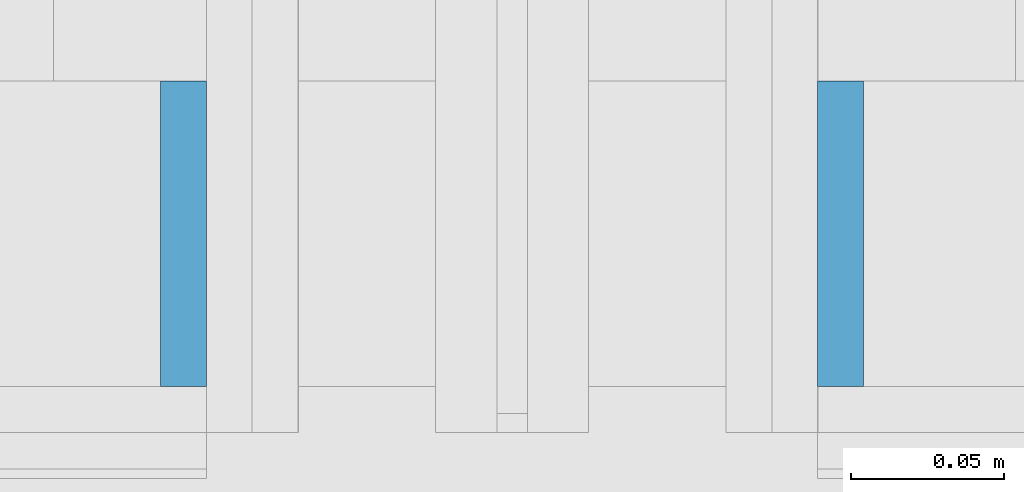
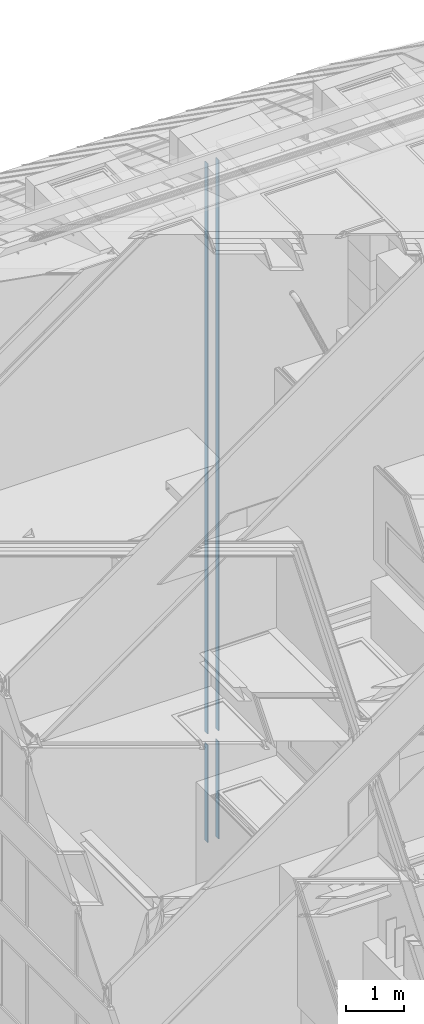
# One storey, part 151 of 583: 4 building element parts, 2 elements without a shape of their own.
"""IFC2X3 building model written with IfcOpenShell, lengths in metres."""

import ifcopenshell
import ifcopenshell.guid

model = None  # the IFC model being written
_history = None  # IfcOwnerHistory: only IFC2X3 demands one
_inside = {}  # id of a spatial element -> (the spatial element, [elements in it])
_under = {}  # id of a project, library or spatial element -> (it, [spatial elements below it])
_declared = {}  # id of a project -> (the project, [libraries it declares])
_typed = {}  # id of a type object -> (the type object, [elements of that type])
_made_of = {}  # id of a material, layer set ... -> (it, [elements and type objects made of it])


def new_model(schema):
    """Start an empty IFC model of exactly this schema.

    Asked for "IFC4X3", IfcOpenShell would pick the latest addendum, in which some entities
    have other attributes; the version numbers below select the first issue.
    IFC2X3 requires an IfcOwnerHistory on every rooted entity: one is made here for all.
    """
    global model, _history
    if schema == "IFC4X3":
        model = ifcopenshell.file(schema_version=(4, 3, 0, 0))
    else:
        model = ifcopenshell.file(schema=schema)
    _inside.clear()
    _under.clear()
    _declared.clear()
    _typed.clear()
    _made_of.clear()
    _history = None
    if model.schema == "IFC2X3":
        org = make("IfcOrganization", Name="unknown")
        user = make(
            "IfcPersonAndOrganization",
            ThePerson=make("IfcPerson", FamilyName="unknown"),
            TheOrganization=org,
        )
        app = make(
            "IfcApplication",
            ApplicationDeveloper=org,
            Version="unknown",
            ApplicationFullName="unknown",
            ApplicationIdentifier="unknown",
        )
        _history = make(
            "IfcOwnerHistory",
            OwningUser=user,
            OwningApplication=app,
            ChangeAction="ADDED",
            CreationDate=0,
        )
    return model


def make(cls, **values):
    """One entity of the class cls with the attributes given. An attribute that is None is left unset."""
    return model.create_entity(
        cls, **{name: value for name, value in values.items() if value is not None}
    )


def entity(cls, *values):
    """Any entity or typed value of the class cls, its attributes in the order of the schema. None: left unset."""
    e = model.create_entity(cls)
    for i, value in enumerate(values):
        if value is not None:
            e[i] = value
    return e


def rooted(cls, **values):
    """An entity with a GlobalId (a new one), such as an element, a storey or a relation."""
    return make(cls, GlobalId=ifcopenshell.guid.new(), OwnerHistory=_history, **values)


def si_unit(unit_type, name, prefix=None):
    """IfcSIUnit, for example si_unit("LENGTHUNIT", "METRE", prefix="MILLI")."""
    return make("IfcSIUnit", UnitType=unit_type, Prefix=prefix, Name=name)


def converted_unit(unit_type, name, factor, base, dimensions=None, offset=None):
    """IfcConversionBasedUnit, such as the inch: factor (a typed value) times the base unit."""
    return make(
        "IfcConversionBasedUnit"
        if offset is None
        else "IfcConversionBasedUnitWithOffset",
        ConversionOffset=offset,
        Dimensions=None
        if dimensions is None
        else entity("IfcDimensionalExponents", *dimensions),
        UnitType=unit_type,
        Name=name,
        ConversionFactor=make(
            "IfcMeasureWithUnit", ValueComponent=factor, UnitComponent=base
        ),
    )


def derived_unit(unit_type, elements):
    """IfcDerivedUnit: a product of units, each with its exponent."""
    return make(
        "IfcDerivedUnit",
        Elements=[
            make("IfcDerivedUnitElement", Unit=unit, Exponent=power)
            for unit, power in elements
        ],
        UnitType=unit_type,
    )


def money_unit(currency):
    """IfcMonetaryUnit."""
    return make("IfcMonetaryUnit", Currency=currency)


def assignment(units):
    """IfcUnitAssignment: the units of a project."""
    return None if units is None else make("IfcUnitAssignment", Units=units)


def point(xyz):
    """IfcCartesianPoint."""
    return None if xyz is None else make("IfcCartesianPoint", Coordinates=xyz)


def direction(xyz):
    """IfcDirection."""
    return None if xyz is None else make("IfcDirection", DirectionRatios=xyz)


def frame(location, z_axis=None, x_axis=None):
    """IfcAxis2Placement3D, a coordinate frame: its origin and axes. An axis left out is left unset."""
    return make(
        "IfcAxis2Placement3D",
        Location=point(location),
        Axis=direction(z_axis),
        RefDirection=direction(x_axis),
    )


def frame_2d(location, x_axis=None):
    """IfcAxis2Placement2D, a coordinate frame in the plane: its origin and x axis."""
    return make(
        "IfcAxis2Placement2D", Location=point(location), RefDirection=direction(x_axis)
    )


def origin_with_axes():
    """The frame at (0, 0, 0) with the z axis (0, 0, 1) and the x axis (1, 0, 0) written out."""
    return frame((0.0, 0.0, 0.0), z_axis=(0.0, 0.0, 1.0), x_axis=(1.0, 0.0, 0.0))


def place(relative_to, where):
    """IfcLocalPlacement: puts the frame where relative to a parent placement (None: the world)."""
    return make(
        "IfcLocalPlacement", PlacementRelTo=relative_to, RelativePlacement=where
    )


def context(
    kind, dimensions, precision=None, world=None, true_north=None, identifier=None
):
    """IfcGeometricRepresentationContext, for example the 3D "Model" context."""
    return make(
        "IfcGeometricRepresentationContext",
        ContextIdentifier=identifier,
        ContextType=kind,
        CoordinateSpaceDimension=dimensions,
        Precision=precision,
        WorldCoordinateSystem=world,
        TrueNorth=true_north,
    )


def subcontext(parent, identifier, kind, view, scale=None):
    """IfcGeometricRepresentationSubContext, for example "Body" below "Model"."""
    return make(
        "IfcGeometricRepresentationSubContext",
        ContextIdentifier=identifier,
        ContextType=kind,
        ParentContext=parent,
        TargetScale=scale,
        TargetView=view,
    )


def project(units=None, contexts=None):
    """IfcProject with its units and contexts."""
    return rooted(
        "IfcProject",
        Name="project",
        RepresentationContexts=contexts,
        UnitsInContext=assignment(units),
    )


def spatial(cls, under=None, at=None, **own):
    """A site, building, storey or space (cls), placed at a placement, below another one or the project."""
    s = rooted(cls, ObjectPlacement=at, **own)
    if under is not None:
        _under.setdefault(under.id(), (under, []))[1].append(s)
    return s


def polyline(points):
    """IfcPolyline through the points."""
    return make("IfcPolyline", Points=[point(p) for p in points])


def profile(cls, at=None, kind="AREA", **sizes):
    """A parametric profile (cls). Its sizes go by their IFC names, for example OverallWidth=200.0."""
    return make(cls, ProfileType=kind, Position=at, **sizes)


def rectangle(**sizes):
    """IfcRectangleProfileDef."""
    return profile("IfcRectangleProfileDef", **sizes)


def outline(outer, holes=None, kind="AREA"):
    """IfcArbitraryClosedProfileDef: a profile drawn as a closed curve; with holes, ...WithVoids."""
    if holes is None:
        return make("IfcArbitraryClosedProfileDef", ProfileType=kind, OuterCurve=outer)
    return make(
        "IfcArbitraryProfileDefWithVoids",
        ProfileType=kind,
        OuterCurve=outer,
        InnerCurves=holes,
    )


def extrude(swept, where, along, depth):
    """IfcExtrudedAreaSolid: the profile swept, set in the frame where, extruded along a direction by depth."""
    return make(
        "IfcExtrudedAreaSolid",
        SweptArea=swept,
        Position=where,
        ExtrudedDirection=direction(along),
        Depth=depth,
    )


def shape(context_of_items, identifier, shape_type, items):
    """IfcShapeRepresentation: the items that make up one representation, for example the "Body"."""
    return make(
        "IfcShapeRepresentation",
        ContextOfItems=context_of_items,
        RepresentationIdentifier=identifier,
        RepresentationType=shape_type,
        Items=items,
    )


def material(Name=None, Category=None):
    """IfcMaterial."""
    return make("IfcMaterial", Name=Name, Category=Category)


def made_of(thing, what):
    """Note that an element or type object is made of a material, layer set ...; save() writes the relation."""
    if what is not None:
        _made_of.setdefault(what.id(), (what, []))[1].append(thing)
    return thing


def type_object(cls, material=None, **own):
    """A type object (cls), such as IfcWallType, which elements share."""
    return made_of(rooted(cls, **own), material)


def element(
    cls,
    number,
    at=None,
    inside=None,
    cuts=None,
    type_object=None,
    material=None,
    context=None,
    identifier="Body",
    shape_type=None,
    held_by="IfcProductDefinitionShape",
    body=None,
    shapes=None,
    **own,
):
    """One element of the class cls, such as IfcWall. Its Tag is "e" and its number.

    at: its placement. inside: the storey or other place that contains it. cuts: it is an
    opening in that element (IfcRelVoidsElement). A single representation is given by context,
    identifier, shape_type and body (its items); several are given by shapes. held_by: the class
    of the entity that holds the representations. save() writes the other relations.
    """
    e = rooted(cls, Tag="e%d" % number, ObjectPlacement=at, **own)
    if body is not None:
        shapes = [shape(context, identifier, shape_type, body)]
    if shapes is not None:
        e.Representation = make(held_by, Representations=shapes)
    if inside is not None:
        _inside.setdefault(inside.id(), (inside, []))[1].append(e)
    if cuts is not None:
        rooted(
            "IfcRelVoidsElement", RelatingBuildingElement=cuts, RelatedOpeningElement=e
        )
    if type_object is not None:
        _typed.setdefault(type_object.id(), (type_object, []))[1].append(e)
    return made_of(e, material)


def aggregate(whole, parts):
    """IfcRelAggregates: a whole, such as a stair, and the parts it consists of."""
    return rooted("IfcRelAggregates", RelatingObject=whole, RelatedObjects=parts)


def save(model, path):
    """Write the relations noted so far, then the file.

    IfcRelAggregates (storeys below a building ...), IfcRelContainedInSpatialStructure (elements
    in a storey), IfcRelDefinesByType, IfcRelAssociatesMaterial and IfcRelDeclares: one each for
    every whole, place, type object, material and project.
    """
    for whole, parts in _under.values():
        aggregate(whole, parts)
    for where, things in _inside.values():
        rooted(
            "IfcRelContainedInSpatialStructure",
            RelatedElements=things,
            RelatingStructure=where,
        )
    for kind, things in _typed.values():
        rooted("IfcRelDefinesByType", RelatedObjects=things, RelatingType=kind)
    for what, things in _made_of.values():
        rooted("IfcRelAssociatesMaterial", RelatedObjects=things, RelatingMaterial=what)
    for by, libraries in _declared.values():
        rooted("IfcRelDeclares", RelatingContext=by, RelatedDefinitions=libraries)
    model.write(path)


model = new_model("IFC2X3")

# Units and contexts
model_context = context("Model", 3, precision=1e-05, world=origin_with_axes(), true_north=direction((0.0, 1.0)))
body_context = subcontext(model_context, "Body", "Model", "MODEL_VIEW", scale=1.0)
ifc_project = project(units=[si_unit("LENGTHUNIT", "METRE"), si_unit("AREAUNIT", "SQUARE_METRE"), si_unit("VOLUMEUNIT", "CUBIC_METRE"), si_unit("ABSORBEDDOSEUNIT", "GRAY"), si_unit("AMOUNTOFSUBSTANCEUNIT", "MOLE"), si_unit("DOSEEQUIVALENTUNIT", "SIEVERT"), si_unit("ELECTRICCAPACITANCEUNIT", "FARAD"), si_unit("ELECTRICCHARGEUNIT", "COULOMB"), si_unit("ELECTRICCONDUCTANCEUNIT", "SIEMENS"), si_unit("ELECTRICCURRENTUNIT", "AMPERE"), si_unit("ELECTRICRESISTANCEUNIT", "OHM"), si_unit("ELECTRICVOLTAGEUNIT", "VOLT"), si_unit("ENERGYUNIT", "JOULE"), si_unit("FORCEUNIT", "NEWTON"), si_unit("FREQUENCYUNIT", "HERTZ"), si_unit("ILLUMINANCEUNIT", "LUX"), si_unit("INDUCTANCEUNIT", "HENRY"), si_unit("LUMINOUSFLUXUNIT", "LUMEN"), si_unit("LUMINOUSINTENSITYUNIT", "CANDELA"), si_unit("MAGNETICFLUXDENSITYUNIT", "TESLA"), si_unit("MAGNETICFLUXUNIT", "WEBER"), si_unit("MASSUNIT", "GRAM"), converted_unit("PLANEANGLEUNIT", "degree", entity("IfcReal", 0.0174532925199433), si_unit("PLANEANGLEUNIT", "RADIAN"), dimensions=[0, 0, 0, 0, 0, 0, 0]), si_unit("POWERUNIT", "WATT"), si_unit("PRESSUREUNIT", "PASCAL"), si_unit("RADIOACTIVITYUNIT", "BECQUEREL"), si_unit("SOLIDANGLEUNIT", "STERADIAN"), si_unit("THERMODYNAMICTEMPERATUREUNIT", "KELVIN"), si_unit("TIMEUNIT", "SECOND"), derived_unit("ACCELERATIONUNIT", [(si_unit("LENGTHUNIT", "METRE"), 1), (si_unit("TIMEUNIT", "SECOND"), -2)]), derived_unit("ANGULARVELOCITYUNIT", [(converted_unit("PLANEANGLEUNIT", "degree", entity("IfcReal", 0.0174532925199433), si_unit("PLANEANGLEUNIT", "RADIAN"), dimensions=[0, 0, 0, 0, 0, 0, 0]), 1), (si_unit("TIMEUNIT", "SECOND"), -1)]), derived_unit("CURVATUREUNIT", [(converted_unit("PLANEANGLEUNIT", "degree", entity("IfcReal", 0.0174532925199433), si_unit("PLANEANGLEUNIT", "RADIAN"), dimensions=[0, 0, 0, 0, 0, 0, 0]), 1), (si_unit("LENGTHUNIT", "METRE"), -1)]), derived_unit("DYNAMICVISCOSITYUNIT", [(si_unit("PRESSUREUNIT", "PASCAL"), 1), (si_unit("TIMEUNIT", "SECOND"), 1)]), derived_unit("HEATFLUXDENSITYUNIT", [(si_unit("POWERUNIT", "WATT"), 1), (si_unit("LENGTHUNIT", "METRE"), -2)]), derived_unit("HEATINGVALUEUNIT", [(si_unit("ENERGYUNIT", "JOULE"), 1), (si_unit("MASSUNIT", "GRAM"), -1)]), derived_unit("INTEGERCOUNTRATEUNIT", [(si_unit("TIMEUNIT", "SECOND"), -1)]), derived_unit("IONCONCENTRATIONUNIT", [(si_unit("MASSUNIT", "GRAM"), 1), (si_unit("VOLUMEUNIT", "CUBIC_METRE"), -1)]), derived_unit("ISOTHERMALMOISTURECAPACITYUNIT", [(si_unit("VOLUMEUNIT", "CUBIC_METRE"), 1), (si_unit("MASSUNIT", "GRAM"), -1)]), derived_unit("KINEMATICVISCOSITYUNIT", [(si_unit("AREAUNIT", "SQUARE_METRE"), 1), (si_unit("TIMEUNIT", "SECOND"), -1)]), derived_unit("LINEARFORCEUNIT", [(si_unit("FORCEUNIT", "NEWTON"), 1), (si_unit("LENGTHUNIT", "METRE"), -1)]), derived_unit("LINEARMOMENTUNIT", [(si_unit("FORCEUNIT", "NEWTON"), 1), (si_unit("LENGTHUNIT", "METRE"), -1)]), derived_unit("LINEARSTIFFNESSUNIT", [(si_unit("FORCEUNIT", "NEWTON"), 1), (si_unit("LENGTHUNIT", "METRE"), -1)]), derived_unit("LINEARVELOCITYUNIT", [(si_unit("LENGTHUNIT", "METRE"), 1), (si_unit("TIMEUNIT", "SECOND"), -1)]), derived_unit("LUMINOUSINTENSITYDISTRIBUTIONUNIT", [(si_unit("LUMINOUSINTENSITYUNIT", "CANDELA"), 1), (si_unit("LUMINOUSFLUXUNIT", "LUMEN"), -1)]), derived_unit("MASSDENSITYUNIT", [(si_unit("MASSUNIT", "GRAM"), 1), (si_unit("VOLUMEUNIT", "CUBIC_METRE"), -1)]), derived_unit("MASSFLOWRATEUNIT", [(si_unit("MASSUNIT", "GRAM"), 1), (si_unit("TIMEUNIT", "SECOND"), -1)]), derived_unit("MASSPERLENGTHUNIT", [(si_unit("MASSUNIT", "GRAM"), 1), (si_unit("LENGTHUNIT", "METRE"), -1)]), derived_unit("MODULUSOFELASTICITYUNIT", [(si_unit("FORCEUNIT", "NEWTON"), 1), (si_unit("AREAUNIT", "SQUARE_METRE"), -1)]), derived_unit("MODULUSOFLINEARSUBGRADEREACTIONUNIT", [(si_unit("FORCEUNIT", "NEWTON"), 1), (si_unit("LENGTHUNIT", "METRE"), -2)]), derived_unit("MODULUSOFROTATIONALSUBGRADEREACTIONUNIT", [(si_unit("FORCEUNIT", "NEWTON"), 1), (si_unit("LENGTHUNIT", "METRE"), 1)]), derived_unit("MODULUSOFSUBGRADEREACTIONUNIT", [(si_unit("FORCEUNIT", "NEWTON"), 1), (si_unit("VOLUMEUNIT", "CUBIC_METRE"), -1)]), derived_unit("MOISTUREDIFFUSIVITYUNIT", [(si_unit("VOLUMEUNIT", "CUBIC_METRE"), 1), (si_unit("TIMEUNIT", "SECOND"), -1)]), derived_unit("MOLECULARWEIGHTUNIT", [(si_unit("MASSUNIT", "GRAM"), 1), (si_unit("AMOUNTOFSUBSTANCEUNIT", "MOLE"), -1)]), derived_unit("PLANARFORCEUNIT", [(si_unit("FORCEUNIT", "NEWTON"), 1), (si_unit("LENGTHUNIT", "METRE"), -2)]), derived_unit("ROTATIONALFREQUENCYUNIT", [(si_unit("TIMEUNIT", "SECOND"), -1)]), derived_unit("ROTATIONALMASSUNIT", [(si_unit("MASSUNIT", "GRAM"), 1), (si_unit("LENGTHUNIT", "METRE"), 2)]), derived_unit("ROTATIONALSTIFFNESSUNIT", [(si_unit("FORCEUNIT", "NEWTON"), 1), (si_unit("LENGTHUNIT", "METRE"), 1), (converted_unit("PLANEANGLEUNIT", "degree", entity("IfcReal", 0.0174532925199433), si_unit("PLANEANGLEUNIT", "RADIAN"), dimensions=[0, 0, 0, 0, 0, 0, 0]), -1)]), derived_unit("SECTIONAREAINTEGRALUNIT", [(si_unit("LENGTHUNIT", "METRE"), 5)]), derived_unit("SECTIONMODULUSUNIT", [(si_unit("LENGTHUNIT", "METRE"), 3)]), derived_unit("SHEARMODULUSUNIT", [(si_unit("FORCEUNIT", "NEWTON"), 1), (si_unit("AREAUNIT", "SQUARE_METRE"), -1)]), derived_unit("SOUNDPOWERUNIT", [(si_unit("ENERGYUNIT", "JOULE"), 1), (si_unit("TIMEUNIT", "SECOND"), -1)]), derived_unit("SPECIFICHEATCAPACITYUNIT", [(si_unit("FORCEUNIT", "NEWTON"), 1), (si_unit("MASSUNIT", "GRAM"), -1), (si_unit("THERMODYNAMICTEMPERATUREUNIT", "KELVIN"), -1)]), derived_unit("TEMPERATUREGRADIENTUNIT", [(si_unit("THERMODYNAMICTEMPERATUREUNIT", "KELVIN"), 1), (si_unit("LENGTHUNIT", "METRE"), -1)]), derived_unit("THERMALADMITTANCEUNIT", [(si_unit("POWERUNIT", "WATT"), 1), (si_unit("AREAUNIT", "SQUARE_METRE"), -1), (si_unit("THERMODYNAMICTEMPERATUREUNIT", "KELVIN"), -1)]), derived_unit("THERMALCONDUCTANCEUNIT", [(si_unit("POWERUNIT", "WATT"), 1), (si_unit("LENGTHUNIT", "METRE"), -1), (si_unit("THERMODYNAMICTEMPERATUREUNIT", "KELVIN"), -1)]), derived_unit("THERMALEXPANSIONCOEFFICIENTUNIT", [(si_unit("THERMODYNAMICTEMPERATUREUNIT", "KELVIN"), -1)]), derived_unit("THERMALRESISTANCEUNIT", [(si_unit("AREAUNIT", "SQUARE_METRE"), 1), (si_unit("POWERUNIT", "WATT"), -1)]), derived_unit("THERMALTRANSMITTANCEUNIT", [(si_unit("POWERUNIT", "WATT"), 1), (si_unit("AREAUNIT", "SQUARE_METRE"), -1), (si_unit("THERMODYNAMICTEMPERATUREUNIT", "KELVIN"), -1)]), derived_unit("TORQUEUNIT", [(si_unit("FORCEUNIT", "NEWTON"), 1), (si_unit("LENGTHUNIT", "METRE"), 1)]), derived_unit("VAPORPERMEABILITYUNIT", [(si_unit("MASSUNIT", "GRAM"), 1), (si_unit("TIMEUNIT", "SECOND"), -1)]), derived_unit("VOLUMETRICFLOWRATEUNIT", [(si_unit("VOLUMEUNIT", "CUBIC_METRE"), 1), (si_unit("TIMEUNIT", "SECOND"), -1)]), derived_unit("WARPINGCONSTANTUNIT", [(si_unit("LENGTHUNIT", "METRE"), 6)]), derived_unit("WARPINGMOMENTUNIT", [(si_unit("FORCEUNIT", "NEWTON"), 1), (si_unit("LENGTHUNIT", "METRE"), 2)]), money_unit("GBP")], contexts=[model_context])

# Site, building, storey
site_placement = place(None, origin_with_axes())
site = spatial("IfcSite", under=ifc_project, at=site_placement, Name="Site", CompositionType="ELEMENT")
building_placement = place(site_placement, origin_with_axes())
building = spatial("IfcBuilding", under=site, at=building_placement, Name="Building01", CompositionType="ELEMENT")
storey_placement = place(building_placement, frame((0.0, 0.0, 20.78), z_axis=(0.0, 0.0, 1.0), x_axis=(1.0, 0.0, 0.0)))
storey = spatial("IfcBuildingStorey", under=building, at=storey_placement, Name="RL", CompositionType="ELEMENT", Elevation=20.78)

# Wall, building element parts
wall_type_1 = type_object("IfcWallType", Name="SHE_A-Walls_Type01d_Partywall_200mm_twin", PredefinedType="NOTDEFINED")
wall_1_placement = place(storey_placement, frame((7.424939, 17.68, -7.18), z_axis=(0.0, 1.0, 0.0), x_axis=(0.0, 0.0, 1.0)))
wall_1 = element("IfcWall", 1, at=wall_1_placement, inside=storey, type_object=wall_type_1, Name="1D", ObjectType="SHE_A-Walls_Type01d_Partywall_200mm_twin")
ifc_material = material(Name="A_BSUK_Walls_Timber")
placement_1 = place(wall_1_placement, origin_with_axes())
building_element_part_1 = element("IfcBuildingElementPart", 2, at=placement_1, material=ifc_material, Name="2", context=body_context, shape_type="SweptSolid", body=[
    extrude(outline(polyline([(11.966087, 0.14), (0.015, 0.14), (0.0, 0.125), (11.966087, 0.125), (11.966087, 0.14)])), frame((0.0, 0.0, 0.015), z_axis=(0.0, 0.0, 1.0), x_axis=(1.0, 0.0, 0.0)), (0.0, 0.0, 1.0), 0.1),
])
building_element_part_2 = element("IfcBuildingElementPart", 3, at=placement_1, material=ifc_material, Name="7", context=body_context, shape_type="SweptSolid", body=[
    extrude(rectangle(XDim=11.951087, YDim=0.015, at=frame_2d((5.990543, -0.0825), x_axis=(-1.0, 0.0))), frame((0.0, 0.0, 0.015), z_axis=(0.0, 0.0, 1.0), x_axis=(1.0, 0.0, 0.0)), (0.0, 0.0, 1.0), 0.1),
])
aggregate(wall_1, [building_element_part_1, building_element_part_2])

wall_type_2 = type_object("IfcWallType", Name="SHE_A-Walls_Type03b_Firewall_200mm_twin", PredefinedType="NOTDEFINED")
wall_2_placement = place(storey_placement, frame((7.474939, 17.68, -7.305), z_axis=(0.0, 1.0, 0.0), x_axis=(0.0, 0.0, -1.0)))
wall_2 = element("IfcWall", 4, at=wall_2_placement, inside=storey, type_object=wall_type_2, Name="3B", ObjectType="SHE_A-Walls_Type03b_Firewall_200mm_twin")
placement_2 = place(wall_2_placement, origin_with_axes())
building_element_part_3 = element("IfcBuildingElementPart", 5, at=placement_2, material=ifc_material, Name="2", context=body_context, shape_type="SweptSolid", body=[
    extrude(rectangle(XDim=2.047, YDim=0.015, at=frame_2d((1.1135, 0.1325), x_axis=(-1.0, 0.0))), frame((0.0, 0.0, 0.015), z_axis=(0.0, 0.0, 1.0), x_axis=(1.0, 0.0, 0.0)), (0.0, 0.0, 1.0), 0.1),
])
building_element_part_4 = element("IfcBuildingElementPart", 6, at=placement_2, material=ifc_material, Name="7", context=body_context, shape_type="SweptSolid", body=[
    extrude(rectangle(XDim=2.047, YDim=0.015, at=frame_2d((1.1135, -0.0825), x_axis=(-1.0, 0.0))), frame((0.0, 0.0, 0.015), z_axis=(0.0, 0.0, 1.0), x_axis=(1.0, 0.0, 0.0)), (0.0, 0.0, 1.0), 0.1),
])
aggregate(wall_2, [building_element_part_3, building_element_part_4])

save(model, "model.ifc")
